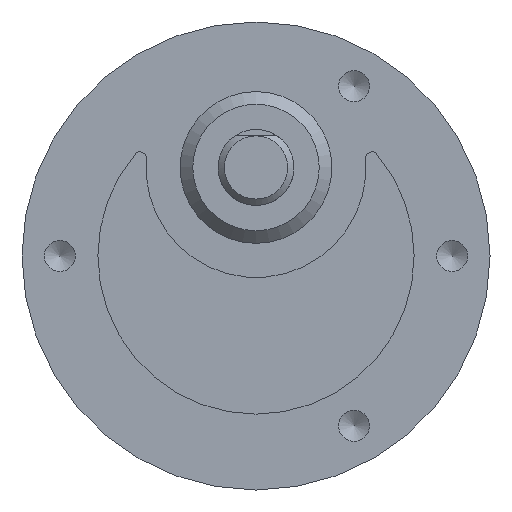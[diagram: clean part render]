
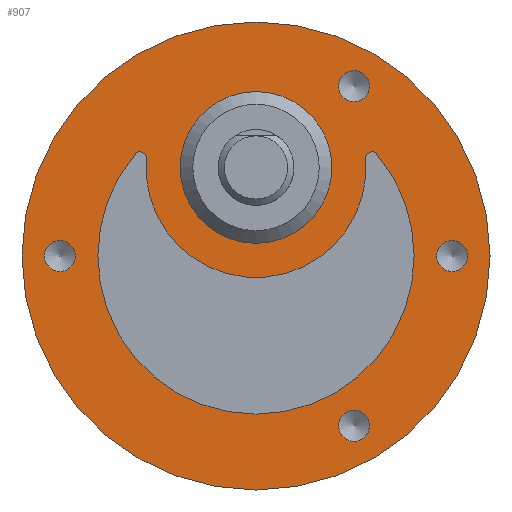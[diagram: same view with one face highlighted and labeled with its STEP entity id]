
A CAD part, front view. The second image highlights one B-rep face of the part: STEP entity #907.
In plain terms, the highlighted planar face has unit normal (0, -1, 0).
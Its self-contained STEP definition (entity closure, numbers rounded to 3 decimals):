
#362=CARTESIAN_POINT('',(6.,0.0,7.));
#363=VERTEX_POINT('',#362);
#364=CARTESIAN_POINT('',(0.0,0.0,7.));
#365=DIRECTION('',(0.0,1.0,0.0));
#366=DIRECTION('',(-1.0,0.0,0.0));
#367=AXIS2_PLACEMENT_3D('',#364,#365,#366);
#368=CIRCLE('',#367,6.);
#369=EDGE_CURVE('',#363,#363,#368,.T.);
#453=CARTESIAN_POINT('',(16.73,0.0,0.0));
#454=VERTEX_POINT('',#453);
#455=CARTESIAN_POINT('',(15.5,0.0,0.0));
#456=DIRECTION('',(0.0,1.0,0.0));
#457=DIRECTION('',(1.0,0.0,0.0));
#458=AXIS2_PLACEMENT_3D('',#455,#456,#457);
#459=CIRCLE('',#458,1.23);
#460=EDGE_CURVE('',#454,#454,#459,.T.);
#532=CARTESIAN_POINT('',(-14.27,0.0,0.0));
#533=VERTEX_POINT('',#532);
#534=CARTESIAN_POINT('',(-15.5,0.0,0.0));
#535=DIRECTION('',(0.0,1.0,0.0));
#536=DIRECTION('',(1.0,0.0,0.0));
#537=AXIS2_PLACEMENT_3D('',#534,#535,#536);
#538=CIRCLE('',#537,1.23);
#539=EDGE_CURVE('',#533,#533,#538,.T.);
#611=CARTESIAN_POINT('',(8.979,0.0,13.423));
#612=VERTEX_POINT('',#611);
#613=CARTESIAN_POINT('',(7.75,0.0,13.423));
#614=DIRECTION('',(0.0,1.0,0.0));
#615=DIRECTION('',(1.0,0.0,0.0));
#616=AXIS2_PLACEMENT_3D('',#613,#614,#615);
#617=CIRCLE('',#616,1.23);
#618=EDGE_CURVE('',#612,#612,#617,.T.);
#690=CARTESIAN_POINT('',(8.979,0.0,-13.423));
#691=VERTEX_POINT('',#690);
#692=CARTESIAN_POINT('',(7.75,0.0,-13.423));
#693=DIRECTION('',(0.0,1.0,0.0));
#694=DIRECTION('',(1.0,0.0,0.0));
#695=AXIS2_PLACEMENT_3D('',#692,#693,#694);
#696=CIRCLE('',#695,1.23);
#697=EDGE_CURVE('',#691,#691,#696,.T.);
#721=CARTESIAN_POINT('',(-9.552,0.0,8.063));
#722=VERTEX_POINT('',#721);
#729=CARTESIAN_POINT('',(9.552,0.0,8.063));
#730=VERTEX_POINT('',#729);
#731=CARTESIAN_POINT('',(0.0,0.0,0.0));
#732=DIRECTION('',(0.0,1.0,0.0));
#733=DIRECTION('',(0.764,0.0,-0.645));
#734=AXIS2_PLACEMENT_3D('',#731,#732,#733);
#735=CIRCLE('',#734,12.5);
#736=EDGE_CURVE('',#730,#722,#735,.T.);
#762=CARTESIAN_POINT('',(8.672,0.0,7.7));
#763=VERTEX_POINT('',#762);
#764=CARTESIAN_POINT('',(9.17,0.0,7.74));
#765=DIRECTION('',(0.0,1.,0.0));
#766=DIRECTION('',(-0.764,0.0,-0.645));
#767=AXIS2_PLACEMENT_3D('',#764,#765,#766);
#768=CIRCLE('',#767,0.5);
#769=EDGE_CURVE('',#763,#730,#768,.T.);
#795=CARTESIAN_POINT('',(-8.672,0.0,7.7));
#796=VERTEX_POINT('',#795);
#797=CARTESIAN_POINT('',(0.0,0.0,7.));
#798=DIRECTION('',(0.0,-1.,0.0));
#799=DIRECTION('',(-0.997,0.0,0.08));
#800=AXIS2_PLACEMENT_3D('',#797,#798,#799);
#801=CIRCLE('',#800,8.7);
#802=EDGE_CURVE('',#796,#763,#801,.T.);
#826=CARTESIAN_POINT('',(-9.17,0.0,7.74));
#827=DIRECTION('',(0.0,1.0,0.0));
#828=DIRECTION('',(-0.997,0.0,0.08));
#829=AXIS2_PLACEMENT_3D('',#826,#827,#828);
#830=CIRCLE('',#829,0.5);
#831=EDGE_CURVE('',#722,#796,#830,.T.);
#857=CARTESIAN_POINT('',(-18.5,0.0,0.));
#858=VERTEX_POINT('',#857);
#859=CARTESIAN_POINT('',(0.0,0.0,0.0));
#860=DIRECTION('',(0.0,-1.0,0.0));
#861=DIRECTION('',(1.0,0.0,0.0));
#862=AXIS2_PLACEMENT_3D('',#859,#860,#861);
#863=CIRCLE('',#862,18.5);
#864=EDGE_CURVE('',#858,#858,#863,.T.);
#878=CARTESIAN_POINT('',(0.0,0.0,0.0));
#879=DIRECTION('',(0.0,-1.0,0.0));
#880=DIRECTION('',(0.0,0.0,-1.0));
#881=AXIS2_PLACEMENT_3D('',#878,#879,#880);
#882=PLANE('',#881);
#883=ORIENTED_EDGE('',*,*,#864,.T.);
#884=EDGE_LOOP('',(#883));
#885=FACE_OUTER_BOUND('',#884,.T.);
#886=ORIENTED_EDGE('',*,*,#460,.T.);
#887=EDGE_LOOP('',(#886));
#888=FACE_BOUND('',#887,.T.);
#889=ORIENTED_EDGE('',*,*,#539,.T.);
#890=EDGE_LOOP('',(#889));
#891=FACE_BOUND('',#890,.T.);
#892=ORIENTED_EDGE('',*,*,#618,.T.);
#893=EDGE_LOOP('',(#892));
#894=FACE_BOUND('',#893,.T.);
#895=ORIENTED_EDGE('',*,*,#697,.T.);
#896=EDGE_LOOP('',(#895));
#897=FACE_BOUND('',#896,.T.);
#898=ORIENTED_EDGE('',*,*,#736,.T.);
#899=ORIENTED_EDGE('',*,*,#831,.T.);
#900=ORIENTED_EDGE('',*,*,#802,.T.);
#901=ORIENTED_EDGE('',*,*,#769,.T.);
#902=EDGE_LOOP('',(#898,#899,#900,#901));
#903=FACE_BOUND('',#902,.T.);
#904=ORIENTED_EDGE('',*,*,#369,.T.);
#905=EDGE_LOOP('',(#904));
#906=FACE_BOUND('',#905,.T.);
#907=ADVANCED_FACE('',(#885,#888,#891,#894,#897,#903,#906),#882,.T.);
